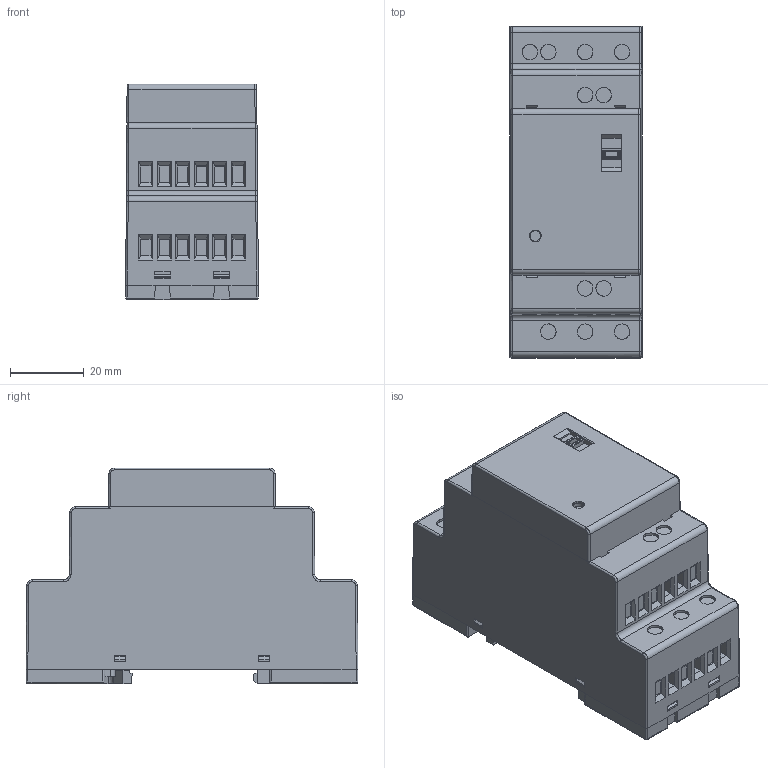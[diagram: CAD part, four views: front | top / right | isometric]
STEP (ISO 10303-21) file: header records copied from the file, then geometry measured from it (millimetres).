
FILE_DESCRIPTION (( 'STEP AP214' ), '1' );
FILE_NAME ('CHI34.STEP', '2024-04-04T09:42:46', ( '' ), ( '' ), 'SwSTEP 2.0', 'SolidWorks 2022', '' );
FILE_SCHEMA (( 'AUTOMOTIVE_DESIGN' ));
Length unit declared in the file: millimetre
Products named in the file (1): CHI34
Bounding box: 36 x 90 x 58.5 mm (x, y, z)
Volume: 146110.1 mm3; surface area: 23242.9 mm2
Topology: 1 solids, 1 shells, 752 faces, 2022 edges, 1293 vertices
Faces by surface type: plane 569, cylinder 93, bspline 74, cone 12, sphere 4
Entity records: 27660 total; most frequent: CARTESIAN_POINT 9508, ORIENTED_EDGE 4036, DIRECTION 3055, EDGE_CURVE 2018, LINE 1569, VECTOR 1569, VERTEX_POINT 1293, EDGE_LOOP 813
